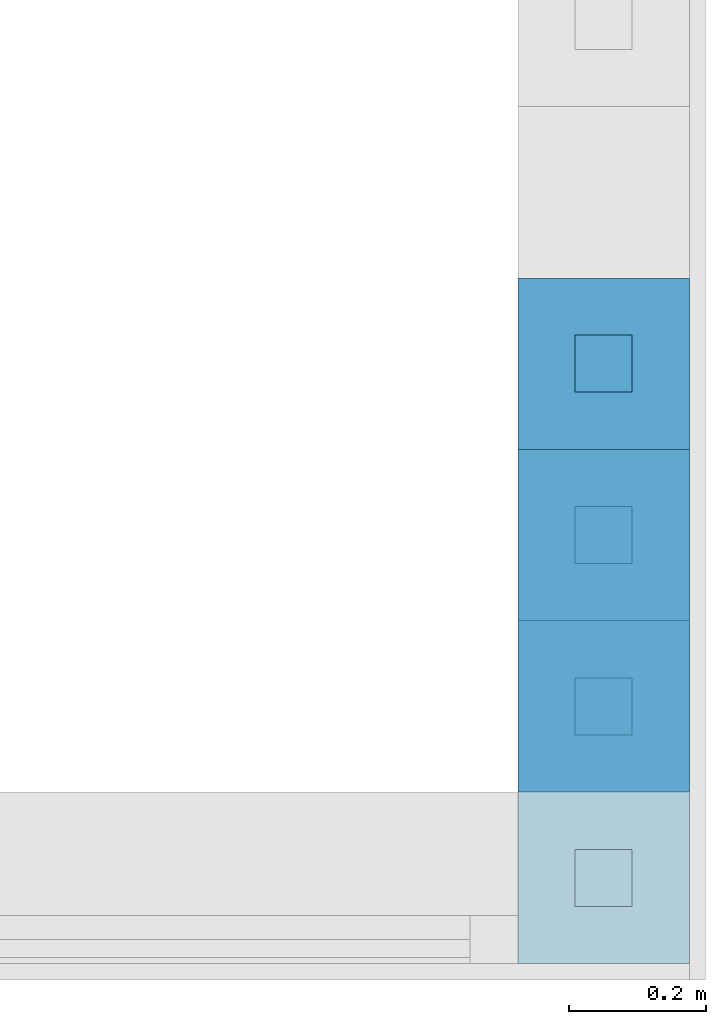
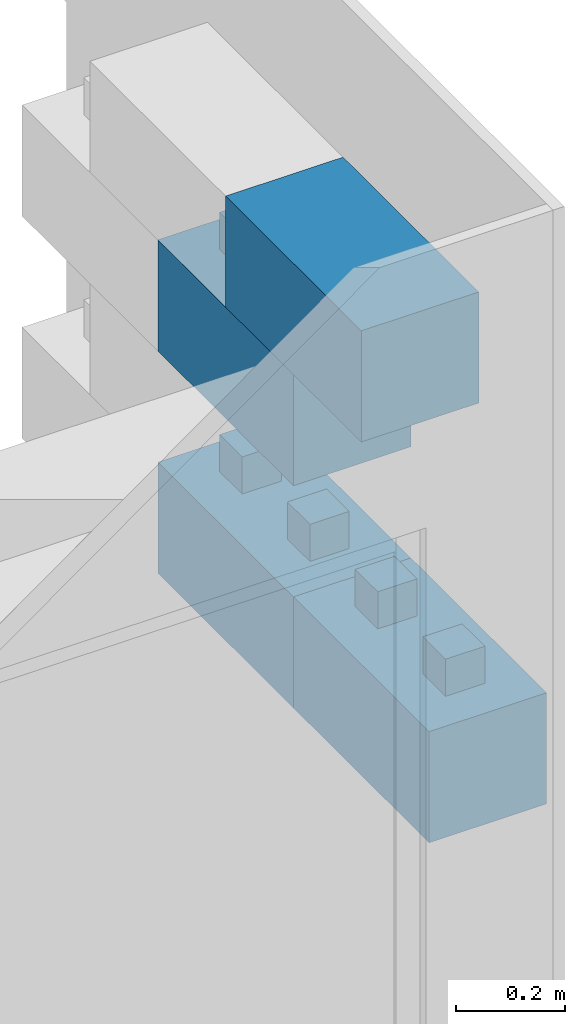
# One storey, part 2 of 5: 4 walls.
"""IFC4 building model written with IfcOpenShell, lengths in centimetres."""

from ifc_helpers import new_model, entity, si_unit, converted_unit, direction, frame, origin, place, context, subcontext, project, spatial, indexed_curve, outline, extrude, material, type_object, element, save


model = new_model("IFC4")

# Units and contexts
model_context = context("Model", 3, precision=0.001, world=origin(), true_north=direction((0.0, 1.0)))
body_context = subcontext(model_context, "Body", "Model", "MODEL_VIEW")
ifc_project = project(units=[si_unit("LENGTHUNIT", "METRE", prefix="CENTI"), si_unit("AREAUNIT", "SQUARE_METRE"), si_unit("VOLUMEUNIT", "CUBIC_METRE"), converted_unit("PLANEANGLEUNIT", "DEGREE", entity("IfcPlaneAngleMeasure", 0.017453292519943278), si_unit("PLANEANGLEUNIT", "RADIAN"), dimensions=[0, 0, 0, 0, 0, 0, 0])], contexts=[model_context])

# Site, building, storey
site_placement = place(None, origin())
site = spatial("IfcSite", under=ifc_project, at=site_placement, Name="Default", CompositionType="ELEMENT")
building_placement = place(site_placement, origin())
building = spatial("IfcBuilding", under=site, at=building_placement, CompositionType="ELEMENT")
storey_placement = place(building_placement, frame((0.0, 0.0, -4.0)))
storey = spatial("IfcBuildingStorey", under=building, at=storey_placement, Name="L00__ABOVE Slab", CompositionType="ELEMENT", Elevation=-4.000000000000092)

# Walls
ifc_material = material(Name="Miscellaneous__Timber Block__Triqbriq, X", Category="Miscellaneous")
wall_type = type_object("IfcWallType", Name="Columns : wll_s__TIMBER BLOCK__Triqbriq, Full Width__wp : WS25", PredefinedType="SOLIDWALL", material=ifc_material)
wall_1_placement = place(storey_placement, frame((3156.8289147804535, 2128.5200309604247, 150.0), z_axis=(0.0, 0.0, 1.0), x_axis=(0.0, 1.0, 0.0)))
element("IfcWall", 1, at=wall_1_placement, inside=storey, type_object=wall_type, material=ifc_material, Name="Columns : wll_s__TIMBER BLOCK__Triqbriq, Full Width__wp : WS25", PredefinedType="SOLIDWALL", context=body_context, shape_type="SweptSolid", body=[
    extrude(outline(indexed_curve([(-4.166666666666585, -4.166666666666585), (4.166666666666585, -4.166666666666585), (4.166666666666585, 4.166666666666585), (-4.166666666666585, 4.166666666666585), (-4.166666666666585, -4.166666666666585)], self_intersect=False)), frame((12.500000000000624, -12.500000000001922, 16.666666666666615)), (0.0, 0.0, 1.0), 16.66666666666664),
    extrude(outline(indexed_curve([(-4.166666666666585, -4.166666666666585), (4.166666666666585, -4.166666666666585), (4.166666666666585, 4.166666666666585), (-4.166666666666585, 4.166666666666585), (-4.166666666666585, -4.166666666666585)], self_intersect=False)), frame((37.50000000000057, -12.500000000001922, 16.66666666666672)), (0.0, 0.0, 1.0), 16.66666666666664),
    extrude(outline(indexed_curve([(-4.166666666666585, -4.166666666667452), (4.166666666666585, -4.166666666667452), (4.166666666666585, 4.166666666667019), (-4.166666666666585, 4.166666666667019), (-4.166666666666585, -4.166666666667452)], self_intersect=False)), frame((4.166666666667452, -4.166666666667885, 8.333333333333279)), (0.0, 0.0, 1.0), 8.333333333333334),
    extrude(outline(indexed_curve([(-4.166666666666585, -4.166666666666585), (4.166666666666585, -4.166666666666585), (4.166666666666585, 4.166666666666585), (-4.166666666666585, 4.166666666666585), (-4.166666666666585, -4.166666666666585)], self_intersect=False)), frame((4.166666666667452, -20.833333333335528, 8.333333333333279)), (0.0, 0.0, 1.0), 8.333333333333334),
    extrude(outline(indexed_curve([(-4.166666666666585, -4.166666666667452), (4.166666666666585, -4.166666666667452), (4.166666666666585, 4.166666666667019), (-4.166666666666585, 4.166666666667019), (-4.166666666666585, -4.166666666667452)], self_intersect=False)), frame((45.833333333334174, -4.166666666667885, 8.333333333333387)), (0.0, 0.0, 1.0), 8.333333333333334),
    extrude(outline(indexed_curve([(-4.166666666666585, -4.166666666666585), (4.166666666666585, -4.166666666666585), (4.166666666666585, 4.166666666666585), (-4.166666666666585, 4.166666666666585), (-4.166666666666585, -4.166666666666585)], self_intersect=False)), frame((45.833333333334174, -20.833333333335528, 8.333333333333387)), (0.0, 0.0, 1.0), 8.333333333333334),
    extrude(outline(indexed_curve([(-8.333333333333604, -4.166666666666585), (8.33333333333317, -4.166666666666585), (8.33333333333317, 4.166666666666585), (-8.333333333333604, 4.166666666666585), (-8.333333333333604, -4.166666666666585)], self_intersect=False)), frame((25.0, -20.833333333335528, 8.333333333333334)), (0.0, 0.0, 1.0), 8.333333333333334),
    extrude(outline(indexed_curve([(-8.333333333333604, -4.166666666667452), (8.33333333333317, -4.166666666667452), (8.33333333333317, 4.166666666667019), (-8.333333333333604, 4.166666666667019), (-8.333333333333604, -4.166666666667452)], self_intersect=False)), frame((25.0, -4.166666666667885, 8.333333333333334)), (0.0, 0.0, 1.0), 8.333333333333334),
    extrude(outline(indexed_curve([(-24.999999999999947, -4.166666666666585), (24.999999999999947, -4.166666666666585), (24.999999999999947, 4.166666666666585), (-24.999999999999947, 4.166666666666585), (-24.999999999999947, -4.166666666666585)], self_intersect=False)), frame((25.0, -12.500000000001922, 8.333333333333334)), (0.0, 0.0, 1.0), 8.333333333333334),
    extrude(outline(indexed_curve([(-4.166666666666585, -12.50000000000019), (4.166666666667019, -12.50000000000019), (4.166666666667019, 12.500000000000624), (-4.166666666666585, 12.500000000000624), (-4.166666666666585, -12.50000000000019)], self_intersect=False)), frame((20.83333333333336, -12.500000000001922, 0.0)), (0.0, 0.0, 1.0), 8.333333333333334),
    extrude(outline(indexed_curve([(-4.166666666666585, -12.50000000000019), (4.166666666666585, -12.50000000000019), (4.166666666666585, 12.500000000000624), (-4.166666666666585, 12.500000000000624), (-4.166666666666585, -12.50000000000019)], self_intersect=False)), frame((29.166666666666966, -12.500000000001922, 0.0)), (0.0, 0.0, 1.0), 8.333333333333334),
    extrude(outline(indexed_curve([(-4.166666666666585, -12.50000000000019), (4.166666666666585, -12.50000000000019), (4.166666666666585, 12.500000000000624), (-4.166666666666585, 12.500000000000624), (-4.166666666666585, -12.50000000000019)], self_intersect=False)), frame((4.166666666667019, -12.500000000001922, 0.0)), (0.0, 0.0, 1.0), 8.333333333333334),
    extrude(outline(indexed_curve([(-4.166666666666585, -12.50000000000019), (4.166666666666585, -12.50000000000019), (4.166666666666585, 12.500000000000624), (-4.166666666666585, 12.500000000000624), (-4.166666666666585, -12.50000000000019)], self_intersect=False)), frame((45.83333333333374, -12.500000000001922, 0.0)), (0.0, 0.0, 1.0), 8.333333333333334),
    extrude(outline(indexed_curve([(-4.166666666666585, -4.166666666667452), (4.166666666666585, -4.166666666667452), (4.166666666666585, 4.166666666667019), (-4.166666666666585, 4.166666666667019), (-4.166666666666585, -4.166666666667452)], self_intersect=False)), frame((12.50000000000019, -4.166666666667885, 0.0)), (0.0, 0.0, 1.0), 24.999999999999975),
    extrude(outline(indexed_curve([(-4.166666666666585, -4.166666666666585), (4.166666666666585, -4.166666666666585), (4.166666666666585, 4.166666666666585), (-4.166666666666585, 4.166666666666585), (-4.166666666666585, -4.166666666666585)], self_intersect=False)), frame((12.50000000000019, -20.833333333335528, 0.0)), (0.0, 0.0, 1.0), 24.999999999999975),
    extrude(outline(indexed_curve([(-4.166666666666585, -4.166666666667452), (4.166666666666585, -4.166666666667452), (4.166666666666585, 4.166666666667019), (-4.166666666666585, 4.166666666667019), (-4.166666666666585, -4.166666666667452)], self_intersect=False)), frame((37.500000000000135, -4.166666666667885, 0.0)), (0.0, 0.0, 1.0), 24.999999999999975),
    extrude(outline(indexed_curve([(-4.166666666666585, -4.166666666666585), (4.166666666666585, -4.166666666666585), (4.166666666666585, 4.166666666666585), (-4.166666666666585, 4.166666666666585), (-4.166666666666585, -4.166666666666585)], self_intersect=False)), frame((37.500000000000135, -20.833333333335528, 0.0)), (0.0, 0.0, 1.0), 24.999999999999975),
    extrude(outline(indexed_curve([(-4.166666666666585, -12.50000000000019), (4.166666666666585, -12.50000000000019), (4.166666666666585, 12.500000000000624), (-4.166666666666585, 12.500000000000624), (-4.166666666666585, -12.50000000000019)], self_intersect=False)), frame((4.166666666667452, -12.500000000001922, 16.666666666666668)), (0.0, 0.0, 1.0), 8.333333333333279),
    extrude(outline(indexed_curve([(-4.166666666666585, -12.50000000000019), (4.166666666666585, -12.50000000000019), (4.166666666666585, 12.500000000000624), (-4.166666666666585, 12.500000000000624), (-4.166666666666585, -12.50000000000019)], self_intersect=False)), frame((20.833333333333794, -12.500000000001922, 16.66666666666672)), (0.0, 0.0, 1.0), 8.333333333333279),
    extrude(outline(indexed_curve([(-4.166666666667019, -12.50000000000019), (4.166666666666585, -12.50000000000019), (4.166666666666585, 12.500000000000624), (-4.166666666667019, 12.500000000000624), (-4.166666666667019, -12.50000000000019)], self_intersect=False)), frame((29.1666666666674, -12.500000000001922, 16.66666666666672)), (0.0, 0.0, 1.0), 8.333333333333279),
    extrude(outline(indexed_curve([(-4.166666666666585, -12.50000000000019), (4.166666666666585, -12.50000000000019), (4.166666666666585, 12.500000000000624), (-4.166666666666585, 12.500000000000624), (-4.166666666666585, -12.50000000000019)], self_intersect=False)), frame((45.833333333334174, -12.500000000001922, 16.666666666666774)), (0.0, 0.0, 1.0), 8.333333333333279),
])
wall_2_placement = place(storey_placement, frame((3156.8289147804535, 2153.520030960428, 225.0), z_axis=(0.0, 0.0, 1.0), x_axis=(0.0, 1.0, 0.0)))
element("IfcWall", 2, at=wall_2_placement, inside=storey, type_object=wall_type, material=ifc_material, Name="Columns : wll_s__TIMBER BLOCK__Triqbriq, Full Width__wp : WS25", PredefinedType="SOLIDWALL", context=body_context, shape_type="SweptSolid", body=[
    extrude(outline(indexed_curve([(-4.166666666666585, -4.166666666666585), (4.166666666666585, -4.166666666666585), (4.166666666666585, 4.166666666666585), (-4.166666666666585, 4.166666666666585), (-4.166666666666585, -4.166666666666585)], self_intersect=False)), frame((12.500000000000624, -12.500000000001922, 16.66666666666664)), (0.0, 0.0, 1.0), 8.33333333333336),
    extrude(outline(indexed_curve([(-4.166666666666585, -4.166666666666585), (4.166666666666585, -4.166666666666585), (4.166666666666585, 4.166666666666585), (-4.166666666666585, 4.166666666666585), (-4.166666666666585, -4.166666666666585)], self_intersect=False)), frame((37.50000000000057, -12.500000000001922, 16.666666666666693)), (0.0, 0.0, 1.0), 8.333333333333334),
    extrude(outline(indexed_curve([(-4.166666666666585, -4.166666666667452), (4.166666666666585, -4.166666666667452), (4.166666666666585, 4.166666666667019), (-4.166666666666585, 4.166666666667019), (-4.166666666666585, -4.166666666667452)], self_intersect=False)), frame((4.166666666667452, -4.166666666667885, 8.333333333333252)), (0.0, 0.0, 1.0), 8.333333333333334),
    extrude(outline(indexed_curve([(-4.166666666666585, -4.166666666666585), (4.166666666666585, -4.166666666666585), (4.166666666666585, 4.166666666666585), (-4.166666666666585, 4.166666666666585), (-4.166666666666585, -4.166666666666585)], self_intersect=False)), frame((4.166666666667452, -20.833333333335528, 8.333333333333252)), (0.0, 0.0, 1.0), 8.333333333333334),
    extrude(outline(indexed_curve([(-4.166666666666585, -4.166666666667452), (4.166666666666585, -4.166666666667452), (4.166666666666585, 4.166666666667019), (-4.166666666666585, 4.166666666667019), (-4.166666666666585, -4.166666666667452)], self_intersect=False)), frame((45.833333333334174, -4.166666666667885, 8.333333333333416)), (0.0, 0.0, 1.0), 8.333333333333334),
    extrude(outline(indexed_curve([(-4.166666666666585, -4.166666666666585), (4.166666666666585, -4.166666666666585), (4.166666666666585, 4.166666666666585), (-4.166666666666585, 4.166666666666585), (-4.166666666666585, -4.166666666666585)], self_intersect=False)), frame((45.833333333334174, -20.833333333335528, 8.333333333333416)), (0.0, 0.0, 1.0), 8.333333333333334),
    extrude(outline(indexed_curve([(-8.33333333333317, -4.166666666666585), (8.333333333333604, -4.166666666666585), (8.333333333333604, 4.166666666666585), (-8.33333333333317, 4.166666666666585), (-8.33333333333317, -4.166666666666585)], self_intersect=False)), frame((25.0, -20.833333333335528, 8.33333333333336)), (0.0, 0.0, 1.0), 8.333333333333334),
    extrude(outline(indexed_curve([(-8.33333333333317, -4.166666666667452), (8.333333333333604, -4.166666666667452), (8.333333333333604, 4.166666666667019), (-8.33333333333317, 4.166666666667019), (-8.33333333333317, -4.166666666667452)], self_intersect=False)), frame((25.0, -4.166666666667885, 8.33333333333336)), (0.0, 0.0, 1.0), 8.333333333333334),
    extrude(outline(indexed_curve([(-24.999999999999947, -4.166666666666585), (24.999999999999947, -4.166666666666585), (24.999999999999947, 4.166666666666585), (-24.999999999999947, 4.166666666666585), (-24.999999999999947, -4.166666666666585)], self_intersect=False)), frame((25.0, -12.500000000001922, 8.333333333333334)), (0.0, 0.0, 1.0), 8.333333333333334),
    extrude(outline(indexed_curve([(-4.166666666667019, -12.50000000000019), (4.166666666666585, -12.50000000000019), (4.166666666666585, 12.500000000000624), (-4.166666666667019, 12.500000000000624), (-4.166666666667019, -12.50000000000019)], self_intersect=False)), frame((20.833333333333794, -12.500000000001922, 0.0)), (0.0, 0.0, 1.0), 8.333333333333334),
    extrude(outline(indexed_curve([(-4.166666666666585, -12.50000000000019), (4.166666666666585, -12.50000000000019), (4.166666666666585, 12.500000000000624), (-4.166666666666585, 12.500000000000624), (-4.166666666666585, -12.50000000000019)], self_intersect=False)), frame((29.166666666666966, -12.500000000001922, 0.0)), (0.0, 0.0, 1.0), 8.333333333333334),
    extrude(outline(indexed_curve([(-4.166666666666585, -12.50000000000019), (4.166666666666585, -12.50000000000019), (4.166666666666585, 12.500000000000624), (-4.166666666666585, 12.500000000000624), (-4.166666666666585, -12.50000000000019)], self_intersect=False)), frame((4.166666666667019, -12.500000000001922, 0.0)), (0.0, 0.0, 1.0), 8.333333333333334),
    extrude(outline(indexed_curve([(-4.166666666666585, -12.50000000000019), (4.166666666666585, -12.50000000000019), (4.166666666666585, 12.500000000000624), (-4.166666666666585, 12.500000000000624), (-4.166666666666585, -12.50000000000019)], self_intersect=False)), frame((45.83333333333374, -12.500000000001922, 0.0)), (0.0, 0.0, 1.0), 8.333333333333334),
    extrude(outline(indexed_curve([(-4.166666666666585, -4.166666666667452), (4.166666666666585, -4.166666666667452), (4.166666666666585, 4.166666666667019), (-4.166666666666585, 4.166666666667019), (-4.166666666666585, -4.166666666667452)], self_intersect=False)), frame((12.50000000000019, -4.166666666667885, 0.0)), (0.0, 0.0, 1.0), 24.999999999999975),
    extrude(outline(indexed_curve([(-4.166666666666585, -4.166666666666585), (4.166666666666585, -4.166666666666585), (4.166666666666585, 4.166666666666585), (-4.166666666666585, 4.166666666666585), (-4.166666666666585, -4.166666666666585)], self_intersect=False)), frame((12.50000000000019, -20.833333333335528, 0.0)), (0.0, 0.0, 1.0), 24.999999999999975),
    extrude(outline(indexed_curve([(-4.166666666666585, -4.166666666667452), (4.166666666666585, -4.166666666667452), (4.166666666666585, 4.166666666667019), (-4.166666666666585, 4.166666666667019), (-4.166666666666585, -4.166666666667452)], self_intersect=False)), frame((37.500000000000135, -4.166666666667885, 0.0)), (0.0, 0.0, 1.0), 24.999999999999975),
    extrude(outline(indexed_curve([(-4.166666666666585, -4.166666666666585), (4.166666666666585, -4.166666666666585), (4.166666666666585, 4.166666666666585), (-4.166666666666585, 4.166666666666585), (-4.166666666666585, -4.166666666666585)], self_intersect=False)), frame((37.500000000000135, -20.833333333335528, 0.0)), (0.0, 0.0, 1.0), 24.999999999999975),
    extrude(outline(indexed_curve([(-4.166666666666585, -12.50000000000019), (4.166666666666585, -12.50000000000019), (4.166666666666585, 12.500000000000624), (-4.166666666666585, 12.500000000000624), (-4.166666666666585, -12.50000000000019)], self_intersect=False)), frame((4.166666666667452, -12.500000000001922, 16.66666666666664)), (0.0, 0.0, 1.0), 8.333333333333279),
    extrude(outline(indexed_curve([(-4.166666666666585, -12.50000000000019), (4.166666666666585, -12.50000000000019), (4.166666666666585, 12.500000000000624), (-4.166666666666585, 12.500000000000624), (-4.166666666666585, -12.50000000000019)], self_intersect=False)), frame((20.833333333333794, -12.500000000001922, 16.666666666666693)), (0.0, 0.0, 1.0), 8.333333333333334),
    extrude(outline(indexed_curve([(-4.166666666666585, -12.50000000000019), (4.166666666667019, -12.50000000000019), (4.166666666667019, 12.500000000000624), (-4.166666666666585, 12.500000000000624), (-4.166666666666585, -12.50000000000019)], self_intersect=False)), frame((29.166666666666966, -12.500000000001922, 16.66666666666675)), (0.0, 0.0, 1.0), 8.333333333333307),
    extrude(outline(indexed_curve([(-4.166666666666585, -12.50000000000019), (4.166666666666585, -12.50000000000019), (4.166666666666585, 12.500000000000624), (-4.166666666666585, 12.500000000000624), (-4.166666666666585, -12.50000000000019)], self_intersect=False)), frame((45.833333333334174, -12.500000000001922, 16.666666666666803)), (0.0, 0.0, 1.0), 8.333333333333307),
])
wall_3_placement = place(storey_placement, frame((3156.828914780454, 2178.520030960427, 200.0), z_axis=(0.0, 0.0, 1.0), x_axis=(0.0, 1.0, 0.0)))
element("IfcWall", 3, at=wall_3_placement, inside=storey, type_object=wall_type, material=ifc_material, Name="Columns : wll_s__TIMBER BLOCK__Triqbriq, Full Width__wp : WS25", PredefinedType="SOLIDWALL", context=body_context, shape_type="SweptSolid", body=[
    extrude(outline(indexed_curve([(-4.166666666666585, -4.166666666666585), (4.166666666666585, -4.166666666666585), (4.166666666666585, 4.166666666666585), (-4.166666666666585, 4.166666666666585), (-4.166666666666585, -4.166666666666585)], self_intersect=False)), frame((12.500000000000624, -12.500000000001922, 16.666666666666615)), (0.0, 0.0, 1.0), 16.66666666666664),
    extrude(outline(indexed_curve([(-4.166666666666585, -4.166666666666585), (4.166666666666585, -4.166666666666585), (4.166666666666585, 4.166666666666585), (-4.166666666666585, 4.166666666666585), (-4.166666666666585, -4.166666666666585)], self_intersect=False)), frame((37.50000000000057, -12.500000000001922, 16.66666666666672)), (0.0, 0.0, 1.0), 16.66666666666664),
    extrude(outline(indexed_curve([(-4.166666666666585, -4.166666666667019), (4.166666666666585, -4.166666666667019), (4.166666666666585, 4.166666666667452), (-4.166666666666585, 4.166666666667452), (-4.166666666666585, -4.166666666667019)], self_intersect=False)), frame((4.166666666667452, -4.166666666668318, 8.333333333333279)), (0.0, 0.0, 1.0), 8.333333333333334),
    extrude(outline(indexed_curve([(-4.166666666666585, -4.166666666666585), (4.166666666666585, -4.166666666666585), (4.166666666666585, 4.166666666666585), (-4.166666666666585, 4.166666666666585), (-4.166666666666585, -4.166666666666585)], self_intersect=False)), frame((4.166666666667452, -20.833333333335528, 8.333333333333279)), (0.0, 0.0, 1.0), 8.333333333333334),
    extrude(outline(indexed_curve([(-4.166666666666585, -4.166666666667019), (4.166666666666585, -4.166666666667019), (4.166666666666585, 4.166666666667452), (-4.166666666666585, 4.166666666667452), (-4.166666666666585, -4.166666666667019)], self_intersect=False)), frame((45.833333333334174, -4.166666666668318, 8.333333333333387)), (0.0, 0.0, 1.0), 8.333333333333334),
    extrude(outline(indexed_curve([(-4.166666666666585, -4.166666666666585), (4.166666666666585, -4.166666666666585), (4.166666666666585, 4.166666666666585), (-4.166666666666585, 4.166666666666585), (-4.166666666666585, -4.166666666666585)], self_intersect=False)), frame((45.833333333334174, -20.833333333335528, 8.333333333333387)), (0.0, 0.0, 1.0), 8.333333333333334),
    extrude(outline(indexed_curve([(-8.333333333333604, -4.166666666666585), (8.33333333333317, -4.166666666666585), (8.33333333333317, 4.166666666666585), (-8.333333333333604, 4.166666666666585), (-8.333333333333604, -4.166666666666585)], self_intersect=False)), frame((25.0, -20.833333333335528, 8.333333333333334)), (0.0, 0.0, 1.0), 8.333333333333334),
    extrude(outline(indexed_curve([(-8.333333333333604, -4.166666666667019), (8.33333333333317, -4.166666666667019), (8.33333333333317, 4.166666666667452), (-8.333333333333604, 4.166666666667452), (-8.333333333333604, -4.166666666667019)], self_intersect=False)), frame((25.0, -4.166666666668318, 8.333333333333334)), (0.0, 0.0, 1.0), 8.333333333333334),
    extrude(outline(indexed_curve([(-24.999999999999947, -4.166666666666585), (24.999999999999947, -4.166666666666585), (24.999999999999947, 4.166666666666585), (-24.999999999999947, 4.166666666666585), (-24.999999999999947, -4.166666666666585)], self_intersect=False)), frame((25.0, -12.500000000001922, 8.333333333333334)), (0.0, 0.0, 1.0), 8.333333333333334),
    extrude(outline(indexed_curve([(-4.166666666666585, -12.50000000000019), (4.166666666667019, -12.50000000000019), (4.166666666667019, 12.500000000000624), (-4.166666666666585, 12.500000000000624), (-4.166666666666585, -12.50000000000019)], self_intersect=False)), frame((20.83333333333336, -12.500000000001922, 0.0)), (0.0, 0.0, 1.0), 8.333333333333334),
    extrude(outline(indexed_curve([(-4.166666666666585, -12.50000000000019), (4.166666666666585, -12.50000000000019), (4.166666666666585, 12.500000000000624), (-4.166666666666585, 12.500000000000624), (-4.166666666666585, -12.50000000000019)], self_intersect=False)), frame((29.166666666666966, -12.500000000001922, 0.0)), (0.0, 0.0, 1.0), 8.333333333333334),
    extrude(outline(indexed_curve([(-4.166666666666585, -12.50000000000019), (4.166666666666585, -12.50000000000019), (4.166666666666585, 12.500000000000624), (-4.166666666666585, 12.500000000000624), (-4.166666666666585, -12.50000000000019)], self_intersect=False)), frame((4.166666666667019, -12.500000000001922, 0.0)), (0.0, 0.0, 1.0), 8.333333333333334),
    extrude(outline(indexed_curve([(-4.166666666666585, -12.50000000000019), (4.166666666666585, -12.50000000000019), (4.166666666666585, 12.500000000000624), (-4.166666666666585, 12.500000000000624), (-4.166666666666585, -12.50000000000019)], self_intersect=False)), frame((45.83333333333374, -12.500000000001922, 0.0)), (0.0, 0.0, 1.0), 8.333333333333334),
    extrude(outline(indexed_curve([(-4.166666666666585, -4.166666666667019), (4.166666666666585, -4.166666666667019), (4.166666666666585, 4.166666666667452), (-4.166666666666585, 4.166666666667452), (-4.166666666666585, -4.166666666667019)], self_intersect=False)), frame((12.50000000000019, -4.166666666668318, 0.0)), (0.0, 0.0, 1.0), 24.999999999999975),
    extrude(outline(indexed_curve([(-4.166666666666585, -4.166666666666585), (4.166666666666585, -4.166666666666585), (4.166666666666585, 4.166666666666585), (-4.166666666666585, 4.166666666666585), (-4.166666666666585, -4.166666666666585)], self_intersect=False)), frame((12.50000000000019, -20.833333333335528, 0.0)), (0.0, 0.0, 1.0), 24.999999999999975),
    extrude(outline(indexed_curve([(-4.166666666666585, -4.166666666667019), (4.166666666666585, -4.166666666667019), (4.166666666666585, 4.166666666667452), (-4.166666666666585, 4.166666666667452), (-4.166666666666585, -4.166666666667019)], self_intersect=False)), frame((37.500000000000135, -4.166666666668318, 0.0)), (0.0, 0.0, 1.0), 24.999999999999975),
    extrude(outline(indexed_curve([(-4.166666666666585, -4.166666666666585), (4.166666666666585, -4.166666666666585), (4.166666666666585, 4.166666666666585), (-4.166666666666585, 4.166666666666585), (-4.166666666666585, -4.166666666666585)], self_intersect=False)), frame((37.500000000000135, -20.833333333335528, 0.0)), (0.0, 0.0, 1.0), 24.999999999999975),
    extrude(outline(indexed_curve([(-4.166666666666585, -12.50000000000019), (4.166666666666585, -12.50000000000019), (4.166666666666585, 12.500000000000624), (-4.166666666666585, 12.500000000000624), (-4.166666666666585, -12.50000000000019)], self_intersect=False)), frame((4.166666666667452, -12.500000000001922, 16.666666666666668)), (0.0, 0.0, 1.0), 8.333333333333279),
    extrude(outline(indexed_curve([(-4.166666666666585, -12.50000000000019), (4.166666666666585, -12.50000000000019), (4.166666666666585, 12.500000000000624), (-4.166666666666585, 12.500000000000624), (-4.166666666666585, -12.50000000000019)], self_intersect=False)), frame((20.833333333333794, -12.500000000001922, 16.66666666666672)), (0.0, 0.0, 1.0), 8.333333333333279),
    extrude(outline(indexed_curve([(-4.166666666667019, -12.50000000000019), (4.166666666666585, -12.50000000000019), (4.166666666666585, 12.500000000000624), (-4.166666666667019, 12.500000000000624), (-4.166666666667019, -12.50000000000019)], self_intersect=False)), frame((29.1666666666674, -12.500000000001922, 16.66666666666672)), (0.0, 0.0, 1.0), 8.333333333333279),
    extrude(outline(indexed_curve([(-4.166666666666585, -12.50000000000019), (4.166666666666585, -12.50000000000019), (4.166666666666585, 12.500000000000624), (-4.166666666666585, 12.500000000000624), (-4.166666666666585, -12.50000000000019)], self_intersect=False)), frame((45.833333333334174, -12.500000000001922, 16.666666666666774)), (0.0, 0.0, 1.0), 8.333333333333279),
])
wall_4_placement = place(storey_placement, frame((3156.8289147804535, 2178.520030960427, 150.0), z_axis=(0.0, 0.0, 1.0), x_axis=(0.0, 1.0, 0.0)))
element("IfcWall", 4, at=wall_4_placement, inside=storey, type_object=wall_type, material=ifc_material, Name="Columns : wll_s__TIMBER BLOCK__Triqbriq, Full Width__wp : WS25", PredefinedType="SOLIDWALL", context=body_context, shape_type="SweptSolid", body=[
    extrude(outline(indexed_curve([(-4.166666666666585, -4.166666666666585), (4.166666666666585, -4.166666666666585), (4.166666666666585, 4.166666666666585), (-4.166666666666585, 4.166666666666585), (-4.166666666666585, -4.166666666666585)], self_intersect=False)), frame((12.500000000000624, -12.500000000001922, 16.666666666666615)), (0.0, 0.0, 1.0), 16.66666666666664),
    extrude(outline(indexed_curve([(-4.166666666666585, -4.166666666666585), (4.166666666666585, -4.166666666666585), (4.166666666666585, 4.166666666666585), (-4.166666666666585, 4.166666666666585), (-4.166666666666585, -4.166666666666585)], self_intersect=False)), frame((37.50000000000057, -12.500000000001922, 16.66666666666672)), (0.0, 0.0, 1.0), 16.66666666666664),
    extrude(outline(indexed_curve([(-4.166666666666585, -4.166666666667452), (4.166666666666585, -4.166666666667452), (4.166666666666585, 4.166666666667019), (-4.166666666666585, 4.166666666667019), (-4.166666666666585, -4.166666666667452)], self_intersect=False)), frame((4.166666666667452, -4.166666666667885, 8.333333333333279)), (0.0, 0.0, 1.0), 8.333333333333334),
    extrude(outline(indexed_curve([(-4.166666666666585, -4.166666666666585), (4.166666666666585, -4.166666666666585), (4.166666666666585, 4.166666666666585), (-4.166666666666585, 4.166666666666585), (-4.166666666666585, -4.166666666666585)], self_intersect=False)), frame((4.166666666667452, -20.833333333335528, 8.333333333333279)), (0.0, 0.0, 1.0), 8.333333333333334),
    extrude(outline(indexed_curve([(-4.166666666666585, -4.166666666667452), (4.166666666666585, -4.166666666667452), (4.166666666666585, 4.166666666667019), (-4.166666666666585, 4.166666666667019), (-4.166666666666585, -4.166666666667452)], self_intersect=False)), frame((45.833333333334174, -4.166666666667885, 8.333333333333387)), (0.0, 0.0, 1.0), 8.333333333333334),
    extrude(outline(indexed_curve([(-4.166666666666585, -4.166666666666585), (4.166666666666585, -4.166666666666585), (4.166666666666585, 4.166666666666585), (-4.166666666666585, 4.166666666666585), (-4.166666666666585, -4.166666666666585)], self_intersect=False)), frame((45.833333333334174, -20.833333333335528, 8.333333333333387)), (0.0, 0.0, 1.0), 8.333333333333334),
    extrude(outline(indexed_curve([(-8.333333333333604, -4.166666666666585), (8.33333333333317, -4.166666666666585), (8.33333333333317, 4.166666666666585), (-8.333333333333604, 4.166666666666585), (-8.333333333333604, -4.166666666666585)], self_intersect=False)), frame((25.0, -20.833333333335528, 8.333333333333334)), (0.0, 0.0, 1.0), 8.333333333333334),
    extrude(outline(indexed_curve([(-8.333333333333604, -4.166666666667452), (8.33333333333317, -4.166666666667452), (8.33333333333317, 4.166666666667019), (-8.333333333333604, 4.166666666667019), (-8.333333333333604, -4.166666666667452)], self_intersect=False)), frame((25.0, -4.166666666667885, 8.333333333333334)), (0.0, 0.0, 1.0), 8.333333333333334),
    extrude(outline(indexed_curve([(-24.999999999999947, -4.166666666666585), (24.999999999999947, -4.166666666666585), (24.999999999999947, 4.166666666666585), (-24.999999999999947, 4.166666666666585), (-24.999999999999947, -4.166666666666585)], self_intersect=False)), frame((25.0, -12.500000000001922, 8.333333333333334)), (0.0, 0.0, 1.0), 8.333333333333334),
    extrude(outline(indexed_curve([(-4.166666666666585, -12.50000000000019), (4.166666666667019, -12.50000000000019), (4.166666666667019, 12.500000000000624), (-4.166666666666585, 12.500000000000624), (-4.166666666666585, -12.50000000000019)], self_intersect=False)), frame((20.83333333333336, -12.500000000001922, 0.0)), (0.0, 0.0, 1.0), 8.333333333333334),
    extrude(outline(indexed_curve([(-4.166666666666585, -12.50000000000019), (4.166666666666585, -12.50000000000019), (4.166666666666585, 12.500000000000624), (-4.166666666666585, 12.500000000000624), (-4.166666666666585, -12.50000000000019)], self_intersect=False)), frame((29.166666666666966, -12.500000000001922, 0.0)), (0.0, 0.0, 1.0), 8.333333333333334),
    extrude(outline(indexed_curve([(-4.166666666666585, -12.50000000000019), (4.166666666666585, -12.50000000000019), (4.166666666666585, 12.500000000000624), (-4.166666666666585, 12.500000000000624), (-4.166666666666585, -12.50000000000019)], self_intersect=False)), frame((4.166666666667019, -12.500000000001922, 0.0)), (0.0, 0.0, 1.0), 8.333333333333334),
    extrude(outline(indexed_curve([(-4.166666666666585, -12.50000000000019), (4.166666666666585, -12.50000000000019), (4.166666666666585, 12.500000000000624), (-4.166666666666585, 12.500000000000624), (-4.166666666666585, -12.50000000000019)], self_intersect=False)), frame((45.83333333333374, -12.500000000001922, 0.0)), (0.0, 0.0, 1.0), 8.333333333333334),
    extrude(outline(indexed_curve([(-4.166666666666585, -4.166666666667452), (4.166666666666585, -4.166666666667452), (4.166666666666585, 4.166666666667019), (-4.166666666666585, 4.166666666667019), (-4.166666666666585, -4.166666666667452)], self_intersect=False)), frame((12.50000000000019, -4.166666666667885, 0.0)), (0.0, 0.0, 1.0), 24.999999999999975),
    extrude(outline(indexed_curve([(-4.166666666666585, -4.166666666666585), (4.166666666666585, -4.166666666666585), (4.166666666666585, 4.166666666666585), (-4.166666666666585, 4.166666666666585), (-4.166666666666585, -4.166666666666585)], self_intersect=False)), frame((12.50000000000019, -20.833333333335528, 0.0)), (0.0, 0.0, 1.0), 24.999999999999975),
    extrude(outline(indexed_curve([(-4.166666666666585, -4.166666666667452), (4.166666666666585, -4.166666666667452), (4.166666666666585, 4.166666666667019), (-4.166666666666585, 4.166666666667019), (-4.166666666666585, -4.166666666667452)], self_intersect=False)), frame((37.500000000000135, -4.166666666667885, 0.0)), (0.0, 0.0, 1.0), 24.999999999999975),
    extrude(outline(indexed_curve([(-4.166666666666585, -4.166666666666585), (4.166666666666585, -4.166666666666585), (4.166666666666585, 4.166666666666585), (-4.166666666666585, 4.166666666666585), (-4.166666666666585, -4.166666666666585)], self_intersect=False)), frame((37.500000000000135, -20.833333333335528, 0.0)), (0.0, 0.0, 1.0), 24.999999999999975),
    extrude(outline(indexed_curve([(-4.166666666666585, -12.50000000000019), (4.166666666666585, -12.50000000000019), (4.166666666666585, 12.500000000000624), (-4.166666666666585, 12.500000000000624), (-4.166666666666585, -12.50000000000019)], self_intersect=False)), frame((4.166666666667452, -12.500000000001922, 16.666666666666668)), (0.0, 0.0, 1.0), 8.333333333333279),
    extrude(outline(indexed_curve([(-4.166666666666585, -12.50000000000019), (4.166666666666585, -12.50000000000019), (4.166666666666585, 12.500000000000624), (-4.166666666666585, 12.500000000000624), (-4.166666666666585, -12.50000000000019)], self_intersect=False)), frame((20.833333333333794, -12.500000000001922, 16.66666666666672)), (0.0, 0.0, 1.0), 8.333333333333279),
    extrude(outline(indexed_curve([(-4.166666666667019, -12.50000000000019), (4.166666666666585, -12.50000000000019), (4.166666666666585, 12.500000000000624), (-4.166666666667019, 12.500000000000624), (-4.166666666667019, -12.50000000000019)], self_intersect=False)), frame((29.1666666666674, -12.500000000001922, 16.66666666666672)), (0.0, 0.0, 1.0), 8.333333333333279),
    extrude(outline(indexed_curve([(-4.166666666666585, -12.50000000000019), (4.166666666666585, -12.50000000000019), (4.166666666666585, 12.500000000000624), (-4.166666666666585, 12.500000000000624), (-4.166666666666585, -12.50000000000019)], self_intersect=False)), frame((45.833333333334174, -12.500000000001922, 16.666666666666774)), (0.0, 0.0, 1.0), 8.333333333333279),
])

save(model, "model.ifc")
